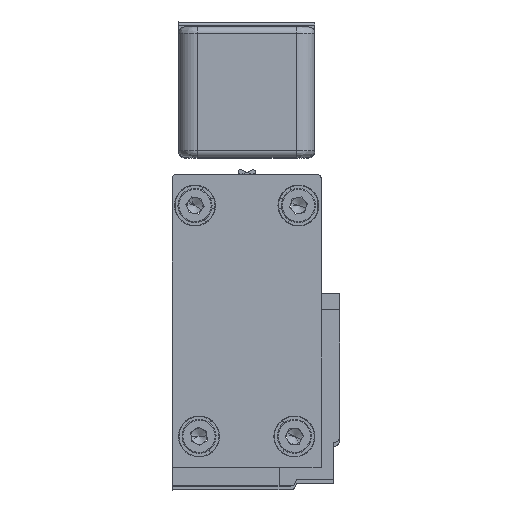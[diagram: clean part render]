
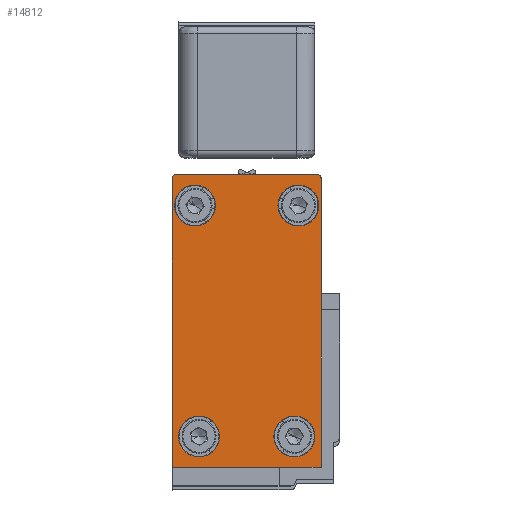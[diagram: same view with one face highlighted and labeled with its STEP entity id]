
A CAD part, top view. The second image highlights one B-rep face of the part: STEP entity #14812.
In plain terms, the highlighted planar face has unit normal (0, 0, 1).
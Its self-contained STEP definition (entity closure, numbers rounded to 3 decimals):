
#93 = CARTESIAN_POINT ( 'NONE',  ( 5.984, -20.888, 3185. ) ) ;
#346 = ORIENTED_EDGE ( 'NONE', *, *, #19672, .T. ) ;
#392 = CIRCLE ( 'NONE', #35885, 3.302 ) ;
#411 = AXIS2_PLACEMENT_3D ( 'NONE', #10067, #29640, #12895 ) ;
#469 = ORIENTED_EDGE ( 'NONE', *, *, #23500, .T. ) ;
#540 = EDGE_CURVE ( 'NONE', #27599, #18078, #5754, .T. ) ;
#602 = ORIENTED_EDGE ( 'NONE', *, *, #32863, .T. ) ;
#954 = ORIENTED_EDGE ( 'NONE', *, *, #12716, .T. ) ;
#1212 = DIRECTION ( 'NONE',  ( 0., 0., 1. ) ) ;
#1339 = DIRECTION ( 'NONE',  ( -1., 0., 0. ) ) ;
#1917 = CARTESIAN_POINT ( 'NONE',  ( -18.014, 25.871, 3185. ) ) ;
#2504 = AXIS2_PLACEMENT_3D ( 'NONE', #26095, #9313, #28887 ) ;
#2814 = DIRECTION ( 'NONE',  ( 0., 1., 0. ) ) ;
#2911 = FACE_OUTER_BOUND ( 'NONE', #34956, .T. ) ;
#3805 = FACE_BOUND ( 'NONE', #14060, .T. ) ;
#4695 = DIRECTION ( 'NONE',  ( 0., 0., -1. ) ) ;
#5088 = CIRCLE ( 'NONE', #9749, 0.5 ) ;
#5754 = LINE ( 'NONE', #13200, #19766 ) ;
#6069 = VERTEX_POINT ( 'NONE', #11268 ) ;
#6302 = CARTESIAN_POINT ( 'NONE',  ( -10.412, -15.887, 3185. ) ) ;
#7659 = DIRECTION ( 'NONE',  ( 0., 1., 0. ) ) ;
#8695 = EDGE_CURVE ( 'NONE', #20130, #14470, #26174, .T. ) ;
#8825 = CARTESIAN_POINT ( 'NONE',  ( 5.485, 25.871, 3185. ) ) ;
#9164 = VERTEX_POINT ( 'NONE', #11527 ) ;
#9313 = DIRECTION ( 'NONE',  ( 0., 0., -1. ) ) ;
#9386 = DIRECTION ( 'NONE',  ( 1., 0., 0. ) ) ;
#9729 = CARTESIAN_POINT ( 'NONE',  ( -17.514, 25.871, 3185. ) ) ;
#9749 = AXIS2_PLACEMENT_3D ( 'NONE', #9729, #29309, #12546 ) ;
#9902 = ORIENTED_EDGE ( 'NONE', *, *, #21994, .T. ) ;
#10067 = CARTESIAN_POINT ( 'NONE',  ( -13.714, -15.887, 3185. ) ) ;
#10228 = CARTESIAN_POINT ( 'NONE',  ( -17.514, 26.371, 3185. ) ) ;
#10698 = AXIS2_PLACEMENT_3D ( 'NONE', #17992, #1212, #20868 ) ;
#10750 = EDGE_CURVE ( 'NONE', #16924, #34967, #11045, .T. ) ;
#10925 = EDGE_CURVE ( 'NONE', #18078, #11423, #19513, .T. ) ;
#11045 = CIRCLE ( 'NONE', #29266, 3.302 ) ;
#11268 = CARTESIAN_POINT ( 'NONE',  ( -17.017, -15.887, 3185. ) ) ;
#11423 = VERTEX_POINT ( 'NONE', #13006 ) ;
#11527 = CARTESIAN_POINT ( 'NONE',  ( 4.978, -15.887, 3185. ) ) ;
#11637 = DIRECTION ( 'NONE',  ( 0., 1., 0. ) ) ;
#12275 = AXIS2_PLACEMENT_3D ( 'NONE', #13681, #33260, #16483 ) ;
#12546 = DIRECTION ( 'NONE',  ( 0., 1., 0. ) ) ;
#12691 = EDGE_LOOP ( 'NONE', ( #19256, #346 ) ) ;
#12716 = EDGE_CURVE ( 'NONE', #6069, #19482, #21164, .T. ) ;
#12810 = VERTEX_POINT ( 'NONE', #16151 ) ;
#12895 = DIRECTION ( 'NONE',  ( -1., 0., 0. ) ) ;
#13006 = CARTESIAN_POINT ( 'NONE',  ( 5.485, 26.371, 3185. ) ) ;
#13117 = EDGE_CURVE ( 'NONE', #11423, #29533, #16238, .T. ) ;
#13126 = CARTESIAN_POINT ( 'NONE',  ( 5.984, -20.888, 3185. ) ) ;
#13200 = CARTESIAN_POINT ( 'NONE',  ( 5.984, 7.11, 3185. ) ) ;
#13241 = CIRCLE ( 'NONE', #26949, 3.302 ) ;
#13618 = DIRECTION ( 'NONE',  ( 0., 0., -1. ) ) ;
#13681 = CARTESIAN_POINT ( 'NONE',  ( 1.676, -15.887, 3185. ) ) ;
#14060 = EDGE_LOOP ( 'NONE', ( #32936, #602 ) ) ;
#14076 = CARTESIAN_POINT ( 'NONE',  ( -14.365, 21.401, 3185. ) ) ;
#14470 = VERTEX_POINT ( 'NONE', #13126 ) ;
#14812 = ADVANCED_FACE ( 'NONE', ( #3805, #17816, #25307, #32733, #2911 ), #26370, .T. ) ;
#14822 = CARTESIAN_POINT ( 'NONE',  ( -18.014, -20.888, 3185. ) ) ;
#14844 = ORIENTED_EDGE ( 'NONE', *, *, #22422, .T. ) ;
#15110 = EDGE_LOOP ( 'NONE', ( #954, #17383 ) ) ;
#15241 = CARTESIAN_POINT ( 'NONE',  ( -18.014, -20.888, 3185. ) ) ;
#15500 = VERTEX_POINT ( 'NONE', #36054 ) ;
#15600 = EDGE_LOOP ( 'NONE', ( #14844, #29402 ) ) ;
#15829 = CARTESIAN_POINT ( 'NONE',  ( 2.335, 21.401, 3185. ) ) ;
#15949 = AXIS2_PLACEMENT_3D ( 'NONE', #34949, #18115, #1339 ) ;
#16151 = CARTESIAN_POINT ( 'NONE',  ( -17.667, 21.401, 3185. ) ) ;
#16238 = LINE ( 'NONE', #32188, #31156 ) ;
#16483 = DIRECTION ( 'NONE',  ( -1., 0., 0. ) ) ;
#16771 = ORIENTED_EDGE ( 'NONE', *, *, #540, .T. ) ;
#16884 = DIRECTION ( 'NONE',  ( -1., 0., 0. ) ) ;
#16924 = VERTEX_POINT ( 'NONE', #30876 ) ;
#17383 = ORIENTED_EDGE ( 'NONE', *, *, #35436, .T. ) ;
#17816 = FACE_BOUND ( 'NONE', #12691, .T. ) ;
#17992 = CARTESIAN_POINT ( 'NONE',  ( -18.014, -20.888, 3185. ) ) ;
#18076 = DIRECTION ( 'NONE',  ( -1., 0., 0. ) ) ;
#18078 = VERTEX_POINT ( 'NONE', #19410 ) ;
#18115 = DIRECTION ( 'NONE',  ( 0., 0., -1. ) ) ;
#18637 = DIRECTION ( 'NONE',  ( -1., 0., 0. ) ) ;
#18696 = VECTOR ( 'NONE', #9386, 1000. ) ;
#18972 = LINE ( 'NONE', #93, #33879 ) ;
#19256 = ORIENTED_EDGE ( 'NONE', *, *, #10750, .T. ) ;
#19396 = CIRCLE ( 'NONE', #15949, 3.302 ) ;
#19410 = CARTESIAN_POINT ( 'NONE',  ( 5.984, 25.871, 3185. ) ) ;
#19482 = VERTEX_POINT ( 'NONE', #6302 ) ;
#19513 = CIRCLE ( 'NONE', #22941, 0.5 ) ;
#19672 = EDGE_CURVE ( 'NONE', #34967, #16924, #13241, .T. ) ;
#19766 = VECTOR ( 'NONE', #7659, 1000. ) ;
#20104 = CIRCLE ( 'NONE', #2504, 3.302 ) ;
#20130 = VERTEX_POINT ( 'NONE', #14822 ) ;
#20205 = CIRCLE ( 'NONE', #12275, 3.302 ) ;
#20868 = DIRECTION ( 'NONE',  ( -1., 0., 0. ) ) ;
#21164 = CIRCLE ( 'NONE', #411, 3.302 ) ;
#21480 = CARTESIAN_POINT ( 'NONE',  ( 2.335, 21.401, 3185. ) ) ;
#21541 = DIRECTION ( 'NONE',  ( 0., -1., 0. ) ) ;
#21994 = EDGE_CURVE ( 'NONE', #14470, #27599, #18972, .T. ) ;
#22398 = ORIENTED_EDGE ( 'NONE', *, *, #13117, .T. ) ;
#22422 = EDGE_CURVE ( 'NONE', #32390, #9164, #19396, .T. ) ;
#22632 = CARTESIAN_POINT ( 'NONE',  ( 5.637, 21.401, 3185. ) ) ;
#22941 = AXIS2_PLACEMENT_3D ( 'NONE', #8825, #28432, #11637 ) ;
#23500 = EDGE_CURVE ( 'NONE', #15500, #20130, #28065, .T. ) ;
#24309 = DIRECTION ( 'NONE',  ( -1., 0., 0. ) ) ;
#25307 = FACE_BOUND ( 'NONE', #15600, .T. ) ;
#26095 = CARTESIAN_POINT ( 'NONE',  ( -13.714, -15.887, 3185. ) ) ;
#26174 = LINE ( 'NONE', #15241, #18696 ) ;
#26370 = PLANE ( 'NONE',  #10698 ) ;
#26949 = AXIS2_PLACEMENT_3D ( 'NONE', #15829, #35482, #18637 ) ;
#26981 = CIRCLE ( 'NONE', #33408, 3.302 ) ;
#27599 = VERTEX_POINT ( 'NONE', #28567 ) ;
#28065 = LINE ( 'NONE', #1917, #34656 ) ;
#28368 = EDGE_CURVE ( 'NONE', #12810, #35722, #392, .T. ) ;
#28432 = DIRECTION ( 'NONE',  ( 0., 0., 1. ) ) ;
#28567 = CARTESIAN_POINT ( 'NONE',  ( 5.984, 7.11, 3185. ) ) ;
#28887 = DIRECTION ( 'NONE',  ( -1., 0., 0. ) ) ;
#29266 = AXIS2_PLACEMENT_3D ( 'NONE', #21480, #4695, #24309 ) ;
#29309 = DIRECTION ( 'NONE',  ( 0., 0., -1. ) ) ;
#29402 = ORIENTED_EDGE ( 'NONE', *, *, #30997, .T. ) ;
#29533 = VERTEX_POINT ( 'NONE', #10228 ) ;
#29640 = DIRECTION ( 'NONE',  ( 0., 0., -1. ) ) ;
#30389 = CARTESIAN_POINT ( 'NONE',  ( -14.365, 21.401, 3185. ) ) ;
#30654 = ORIENTED_EDGE ( 'NONE', *, *, #10925, .T. ) ;
#30876 = CARTESIAN_POINT ( 'NONE',  ( -0.967, 21.401, 3185. ) ) ;
#30997 = EDGE_CURVE ( 'NONE', #9164, #32390, #20205, .T. ) ;
#31156 = VECTOR ( 'NONE', #18076, 1000. ) ;
#32188 = CARTESIAN_POINT ( 'NONE',  ( 5.485, 26.371, 3185. ) ) ;
#32390 = VERTEX_POINT ( 'NONE', #36185 ) ;
#32503 = ORIENTED_EDGE ( 'NONE', *, *, #32599, .F. ) ;
#32599 = EDGE_CURVE ( 'NONE', #15500, #29533, #5088, .T. ) ;
#32672 = CARTESIAN_POINT ( 'NONE',  ( -11.063, 21.401, 3185. ) ) ;
#32733 = FACE_BOUND ( 'NONE', #15110, .T. ) ;
#32863 = EDGE_CURVE ( 'NONE', #35722, #12810, #26981, .T. ) ;
#32936 = ORIENTED_EDGE ( 'NONE', *, *, #28368, .T. ) ;
#33185 = DIRECTION ( 'NONE',  ( -1., 0., 0. ) ) ;
#33260 = DIRECTION ( 'NONE',  ( 0., 0., -1. ) ) ;
#33408 = AXIS2_PLACEMENT_3D ( 'NONE', #30389, #13618, #33185 ) ;
#33475 = ORIENTED_EDGE ( 'NONE', *, *, #8695, .T. ) ;
#33662 = DIRECTION ( 'NONE',  ( 0., 0., -1. ) ) ;
#33879 = VECTOR ( 'NONE', #2814, 1000. ) ;
#34656 = VECTOR ( 'NONE', #21541, 1000. ) ;
#34949 = CARTESIAN_POINT ( 'NONE',  ( 1.676, -15.887, 3185. ) ) ;
#34956 = EDGE_LOOP ( 'NONE', ( #9902, #16771, #30654, #22398, #32503, #469, #33475 ) ) ;
#34967 = VERTEX_POINT ( 'NONE', #22632 ) ;
#35436 = EDGE_CURVE ( 'NONE', #19482, #6069, #20104, .T. ) ;
#35482 = DIRECTION ( 'NONE',  ( 0., 0., -1. ) ) ;
#35722 = VERTEX_POINT ( 'NONE', #32672 ) ;
#35885 = AXIS2_PLACEMENT_3D ( 'NONE', #14076, #33662, #16884 ) ;
#36054 = CARTESIAN_POINT ( 'NONE',  ( -18.014, 25.871, 3185. ) ) ;
#36185 = CARTESIAN_POINT ( 'NONE',  ( -1.626, -15.887, 3185. ) ) ;
